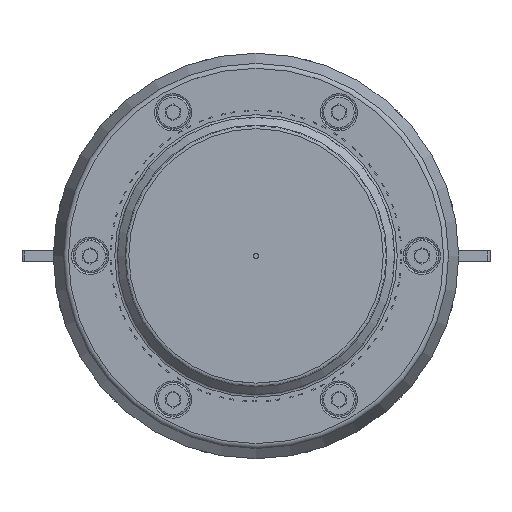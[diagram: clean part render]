
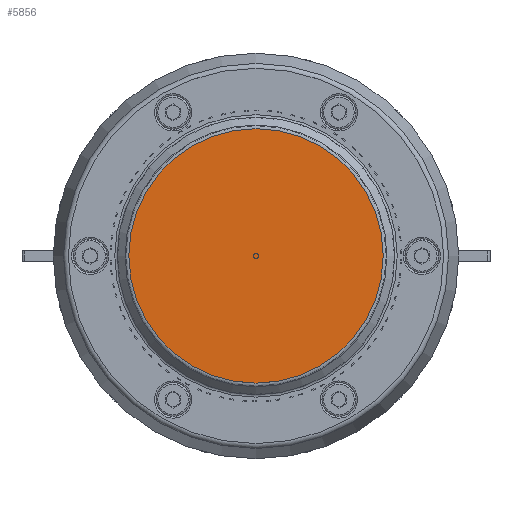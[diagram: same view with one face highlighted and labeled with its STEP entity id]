
A CAD part, top view. The second image highlights one B-rep face of the part: STEP entity #5856.
In plain terms, the highlighted planar face has unit normal (0, 0, 1).
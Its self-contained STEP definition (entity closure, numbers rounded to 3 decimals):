
#5856=ADVANCED_FACE('',(#20710),#20712,.T.);
#20710=FACE_BOUND('',#20711,.T.);
#20711=EDGE_LOOP('',(#99355));
#20712=PLANE('',#20713);
#20713=AXIS2_PLACEMENT_3D('',#20714,#20715,#20716);
#20714=CARTESIAN_POINT('',(0.,0.,0.));
#20715=DIRECTION('',(0.,0.,1.));
#20716=DIRECTION('',(-1.,0.,0.));
#99355=ORIENTED_EDGE('',*,*,#106041,.F.);
#106041=EDGE_CURVE('',#112667,#112667,#112668,.T.);
#112667=VERTEX_POINT('',#147237);
#112668=CIRCLE('',#147238,146.515);
#147237=CARTESIAN_POINT('',(-146.515,0.,0.));
#147238=AXIS2_PLACEMENT_3D('',#147239,#147240,#147241);
#147239=CARTESIAN_POINT('',(0.,0.,0.));
#147240=DIRECTION('',(0.,0.,-1.));
#147241=DIRECTION('',(-1.,0.,0.));
